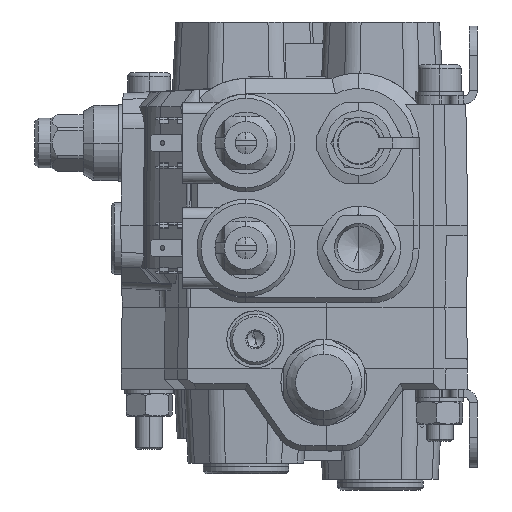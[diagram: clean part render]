
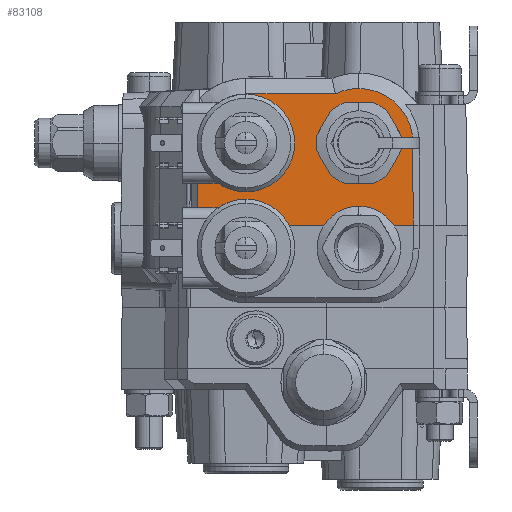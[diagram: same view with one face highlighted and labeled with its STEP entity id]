
A CAD part, left-side view. The second image highlights one B-rep face of the part: STEP entity #83108.
In plain terms, the highlighted planar face has unit normal (-1, 0, 0.012).
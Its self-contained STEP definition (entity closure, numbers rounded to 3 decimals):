
#3498 = ORIENTED_EDGE ( 'NONE', *, *, #95590, .F. ) ;
#4928 = VERTEX_POINT ( 'NONE', #26211 ) ;
#5421 = VERTEX_POINT ( 'NONE', #78316 ) ;
#9093 = CARTESIAN_POINT ( 'NONE',  ( -70.48, -12., 50.77 ) ) ;
#9918 = VECTOR ( 'NONE', #50226, 1000. ) ;
#10674 = DIRECTION ( 'NONE',  ( 0., -1., 0. ) ) ;
#11474 = CARTESIAN_POINT ( 'NONE',  ( -70.723, -32.024, 30.85 ) ) ;
#12266 = ORIENTED_EDGE ( 'NONE', *, *, #109487, .T. ) ;
#13282 = DIRECTION ( 'NONE',  ( 0., -1., 0. ) ) ;
#15504 = CARTESIAN_POINT ( 'NONE',  ( -70.724, 48.024, 30.815 ) ) ;
#16495 = ORIENTED_EDGE ( 'NONE', *, *, #102631, .F. ) ;
#17255 = EDGE_CURVE ( 'NONE', #46385, #117903, #113360, .T. ) ;
#18273 = CARTESIAN_POINT ( 'NONE',  ( -70.48, -23.681, 50.77 ) ) ;
#22972 = CARTESIAN_POINT ( 'NONE',  ( -70.488, -5.971, 50.084 ) ) ;
#25883 = ORIENTED_EDGE ( 'NONE', *, *, #68117, .F. ) ;
#26211 = CARTESIAN_POINT ( 'NONE',  ( -70.504, -3.226, 48.746 ) ) ;
#26309 = CARTESIAN_POINT ( 'NONE',  ( -70.48, -8.946, 50.77 ) ) ;
#28987 = LINE ( 'NONE', #122672, #106664 ) ;
#35547 = VERTEX_POINT ( 'NONE', #75414 ) ;
#37089 = CARTESIAN_POINT ( 'NONE',  ( -70.504, 30., 48.746 ) ) ;
#44433 = LINE ( 'NONE', #76706, #128953 ) ;
#45105 = CARTESIAN_POINT ( 'NONE',  ( -70.504, -3.226, 48.746 ) ) ;
#46385 = VERTEX_POINT ( 'NONE', #64396 ) ;
#49138 = CARTESIAN_POINT ( 'NONE',  ( -70.595, 47.969, 41.33 ) ) ;
#50226 = DIRECTION ( 'NONE',  ( -0.012, -0.005, -1. ) ) ;
#57387 = ORIENTED_EDGE ( 'NONE', *, *, #17255, .F. ) ;
#64396 = CARTESIAN_POINT ( 'NONE',  ( -70.723, -32.024, 30.85 ) ) ;
#66431 = CARTESIAN_POINT ( 'NONE',  ( -70.58, -31.963, 42.531 ) ) ;
#68085 = VERTEX_POINT ( 'NONE', #133357 ) ;
#68117 = EDGE_CURVE ( 'NONE', #5421, #83792, #129827, .T. ) ;
#70926 = CARTESIAN_POINT ( 'NONE',  ( -70.724, 48.024, 30.815 ) ) ;
#71280 = VECTOR ( 'NONE', #88578, 1000. ) ;
#72245 = FACE_OUTER_BOUND ( 'NONE', #115532, .T. ) ;
#72948 =( BOUNDED_CURVE ( )  B_SPLINE_CURVE ( 3, ( #70926, #49138, #81978, #37089 ),
 .UNSPECIFIED., .F., .T. ) 
 B_SPLINE_CURVE_WITH_KNOTS ( ( 4, 4 ),
 ( 4.718, 6.283 ),
 .UNSPECIFIED. ) 
 CURVE ( )  GEOMETRIC_REPRESENTATION_ITEM ( )  RATIONAL_B_SPLINE_CURVE ( ( 1., 0.806, 0.806, 1. ) ) 
 REPRESENTATION_ITEM ( '' )  );
#75414 = CARTESIAN_POINT ( 'NONE',  ( -70.48, -12., 50.77 ) ) ;
#76654 =( BOUNDED_CURVE ( )  B_SPLINE_CURVE ( 3, ( #9093, #18273, #66431, #11474 ),
 .UNSPECIFIED., .F., .F. ) 
 B_SPLINE_CURVE_WITH_KNOTS ( ( 4, 4 ),
 ( 0., 1.566 ),
 .UNSPECIFIED. ) 
 CURVE ( )  GEOMETRIC_REPRESENTATION_ITEM ( )  RATIONAL_B_SPLINE_CURVE ( ( 1., 0.806, 0.806, 1. ) ) 
 REPRESENTATION_ITEM ( '' )  );
#76706 = CARTESIAN_POINT ( 'NONE',  ( -71.1, 0., 0. ) ) ;
#78316 = CARTESIAN_POINT ( 'NONE',  ( -71.1, 48.185, 0. ) ) ;
#81978 = CARTESIAN_POINT ( 'NONE',  ( -70.504, 40.514, 48.746 ) ) ;
#83108 = ADVANCED_FACE ( 'NONE', ( #72245 ), #127277, .T. ) ;
#83792 = VERTEX_POINT ( 'NONE', #15504 ) ;
#84881 = CARTESIAN_POINT ( 'NONE',  ( -71.1, 0., 0. ) ) ;
#88578 = DIRECTION ( 'NONE',  ( 0.012, -0.005, 1. ) ) ;
#95590 = EDGE_CURVE ( 'NONE', #68085, #4928, #28987, .T. ) ;
#95997 = DIRECTION ( 'NONE',  ( -1., 0., 0.012 ) ) ;
#100931 = ORIENTED_EDGE ( 'NONE', *, *, #104451, .F. ) ;
#102631 = EDGE_CURVE ( 'NONE', #35547, #46385, #76654, .T. ) ;
#104451 = EDGE_CURVE ( 'NONE', #4928, #35547, #126089, .T. ) ;
#106194 = CARTESIAN_POINT ( 'NONE',  ( -71.098, -32.184, 0.168 ) ) ;
#106664 = VECTOR ( 'NONE', #13282, 1000. ) ;
#109487 = EDGE_CURVE ( 'NONE', #5421, #117903, #44433, .T. ) ;
#110271 = CARTESIAN_POINT ( 'NONE',  ( -71.097, 48.184, 0.252 ) ) ;
#111174 = CARTESIAN_POINT ( 'NONE',  ( -70.48, -12., 50.77 ) ) ;
#113360 = LINE ( 'NONE', #106194, #9918 ) ;
#114074 = ORIENTED_EDGE ( 'NONE', *, *, #135730, .F. ) ;
#115532 = EDGE_LOOP ( 'NONE', ( #25883, #12266, #57387, #16495, #100931, #3498, #114074 ) ) ;
#116482 = CARTESIAN_POINT ( 'NONE',  ( -71.1, -32.185, 0. ) ) ;
#117903 = VERTEX_POINT ( 'NONE', #116482 ) ;
#122672 = CARTESIAN_POINT ( 'NONE',  ( -70.504, 0., 48.746 ) ) ;
#126089 =( BOUNDED_CURVE ( )  B_SPLINE_CURVE ( 3, ( #45105, #22972, #26309, #111174 ),
 .UNSPECIFIED., .F., .F. ) 
 B_SPLINE_CURVE_WITH_KNOTS ( ( 4, 4 ),
 ( 5.83, 6.283 ),
 .UNSPECIFIED. ) 
 CURVE ( )  GEOMETRIC_REPRESENTATION_ITEM ( )  RATIONAL_B_SPLINE_CURVE ( ( 1., 0.983, 0.983, 1. ) ) 
 REPRESENTATION_ITEM ( '' )  );
#127277 = PLANE ( 'NONE',  #136503 ) ;
#128953 = VECTOR ( 'NONE', #10674, 1000. ) ;
#129827 = LINE ( 'NONE', #110271, #71280 ) ;
#133357 = CARTESIAN_POINT ( 'NONE',  ( -70.504, 30., 48.746 ) ) ;
#135730 = EDGE_CURVE ( 'NONE', #83792, #68085, #72948, .T. ) ;
#136503 = AXIS2_PLACEMENT_3D ( 'NONE', #84881, #95997, #139306 ) ;
#139306 = DIRECTION ( 'NONE',  ( 0.012, 0., 1. ) ) ;
